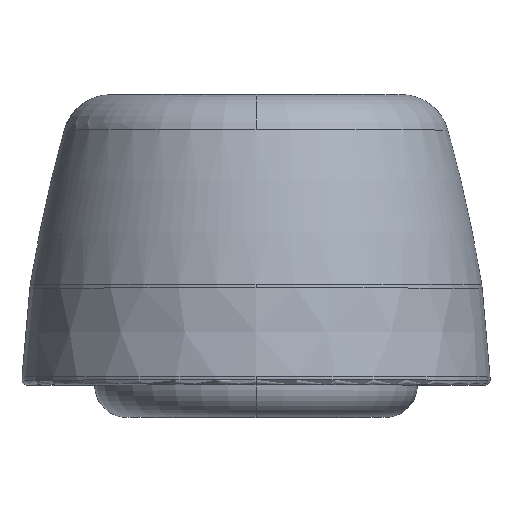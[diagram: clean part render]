
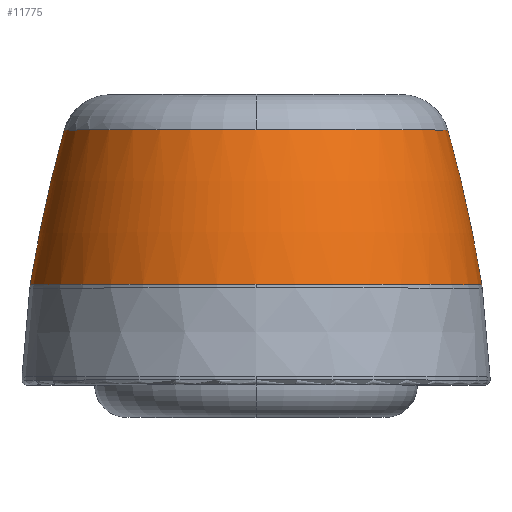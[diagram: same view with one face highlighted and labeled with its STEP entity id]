
A CAD part, top view. The second image highlights one B-rep face of the part: STEP entity #11775.
In plain terms, the highlighted toroidal (fillet/blend) face has major radius 74.841 mm and minor radius 90 mm.
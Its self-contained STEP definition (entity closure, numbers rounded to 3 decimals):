
#926 = CIRCLE ( 'NONE', #14147, 13.991 ) ;
#1065 = DIRECTION ( 'NONE',  ( 0., 1., 0. ) ) ;
#1247 = CARTESIAN_POINT ( 'NONE',  ( 0., 5.22, 0. ) ) ;
#1255 = CARTESIAN_POINT ( 'NONE',  ( 0., 14.801, 0. ) ) ;
#1418 = DIRECTION ( 'NONE',  ( 0., -1., 0. ) ) ;
#1589 = EDGE_CURVE ( 'NONE', #6004, #9231, #16243, .T. ) ;
#3182 = CARTESIAN_POINT ( 'NONE',  ( 13.991, 5.22, 0. ) ) ;
#3336 = CIRCLE ( 'NONE', #6727, 90. ) ;
#3341 = CARTESIAN_POINT ( 'NONE',  ( -11.891, 14.801, 0. ) ) ;
#3692 = ORIENTED_EDGE ( 'NONE', *, *, #10468, .T. ) ;
#4208 = CARTESIAN_POINT ( 'NONE',  ( -74.841, -9.232, 0. ) ) ;
#4212 = CARTESIAN_POINT ( 'NONE',  ( 0., 5.22, 0. ) ) ;
#4592 = AXIS2_PLACEMENT_3D ( 'NONE', #16524, #14699, #13255 ) ;
#4874 = AXIS2_PLACEMENT_3D ( 'NONE', #1247, #1065, #18684 ) ;
#5350 = DIRECTION ( 'NONE',  ( 0., 0., -1. ) ) ;
#5654 = DIRECTION ( 'NONE',  ( 1., 0., 0. ) ) ;
#6004 = VERTEX_POINT ( 'NONE', #15687 ) ;
#6028 = CIRCLE ( 'NONE', #9746, 90. ) ;
#6407 = DIRECTION ( 'NONE',  ( -1., 0., 0. ) ) ;
#6727 = AXIS2_PLACEMENT_3D ( 'NONE', #12490, #5350, #6407 ) ;
#6926 = DIRECTION ( 'NONE',  ( 1., 0., 0. ) ) ;
#7001 = DIRECTION ( 'NONE',  ( -1., 0., 0. ) ) ;
#7010 = EDGE_CURVE ( 'NONE', #18675, #9672, #3336, .T. ) ;
#8109 = ORIENTED_EDGE ( 'NONE', *, *, #1589, .T. ) ;
#8209 = EDGE_CURVE ( 'NONE', #18675, #14206, #926, .T. ) ;
#8334 = CARTESIAN_POINT ( 'NONE',  ( -13.991, 5.22, 0. ) ) ;
#8338 = ORIENTED_EDGE ( 'NONE', *, *, #15359, .T. ) ;
#8609 = TOROIDAL_SURFACE ( 'NONE', #4592, -74.841, 90. ) ;
#9231 = VERTEX_POINT ( 'NONE', #12867 ) ;
#9672 = VERTEX_POINT ( 'NONE', #3341 ) ;
#9746 = AXIS2_PLACEMENT_3D ( 'NONE', #4208, #11545, #5654 ) ;
#9762 = ORIENTED_EDGE ( 'NONE', *, *, #8209, .T. ) ;
#9914 = ORIENTED_EDGE ( 'NONE', *, *, #7010, .F. ) ;
#10468 = EDGE_CURVE ( 'NONE', #14206, #13016, #15349, .T. ) ;
#11545 = DIRECTION ( 'NONE',  ( 0., 0., 1. ) ) ;
#11547 = CARTESIAN_POINT ( 'NONE',  ( 0., 14.801, 0. ) ) ;
#11775 = ADVANCED_FACE ( 'NONE', ( #12105 ), #8609, .T. ) ;
#12105 = FACE_OUTER_BOUND ( 'NONE', #12249, .T. ) ;
#12172 = CIRCLE ( 'NONE', #16161, 11.891 ) ;
#12249 = EDGE_LOOP ( 'NONE', ( #3692, #12825, #8109, #8338, #9914, #9762 ) ) ;
#12490 = CARTESIAN_POINT ( 'NONE',  ( 74.841, -9.232, 0. ) ) ;
#12825 = ORIENTED_EDGE ( 'NONE', *, *, #14632, .T. ) ;
#12867 = CARTESIAN_POINT ( 'NONE',  ( 0., 14.801, 11.891 ) ) ;
#13016 = VERTEX_POINT ( 'NONE', #3182 ) ;
#13192 = DIRECTION ( 'NONE',  ( 0., -1., 0. ) ) ;
#13255 = DIRECTION ( 'NONE',  ( -1., 0., 0. ) ) ;
#14147 = AXIS2_PLACEMENT_3D ( 'NONE', #4212, #14616, #7001 ) ;
#14206 = VERTEX_POINT ( 'NONE', #17924 ) ;
#14616 = DIRECTION ( 'NONE',  ( 0., 1., 0. ) ) ;
#14632 = EDGE_CURVE ( 'NONE', #13016, #6004, #6028, .T. ) ;
#14699 = DIRECTION ( 'NONE',  ( 0., 1., 0. ) ) ;
#15349 = CIRCLE ( 'NONE', #4874, 13.991 ) ;
#15359 = EDGE_CURVE ( 'NONE', #9231, #9672, #12172, .T. ) ;
#15687 = CARTESIAN_POINT ( 'NONE',  ( 11.891, 14.801, 0. ) ) ;
#16161 = AXIS2_PLACEMENT_3D ( 'NONE', #11547, #1418, #19046 ) ;
#16243 = CIRCLE ( 'NONE', #19014, 11.891 ) ;
#16524 = CARTESIAN_POINT ( 'NONE',  ( 0., -9.232, 0. ) ) ;
#17924 = CARTESIAN_POINT ( 'NONE',  ( 0., 5.22, 13.991 ) ) ;
#18675 = VERTEX_POINT ( 'NONE', #8334 ) ;
#18684 = DIRECTION ( 'NONE',  ( -1., 0., 0. ) ) ;
#19014 = AXIS2_PLACEMENT_3D ( 'NONE', #1255, #13192, #6926 ) ;
#19046 = DIRECTION ( 'NONE',  ( 1., 0., 0. ) ) ;
